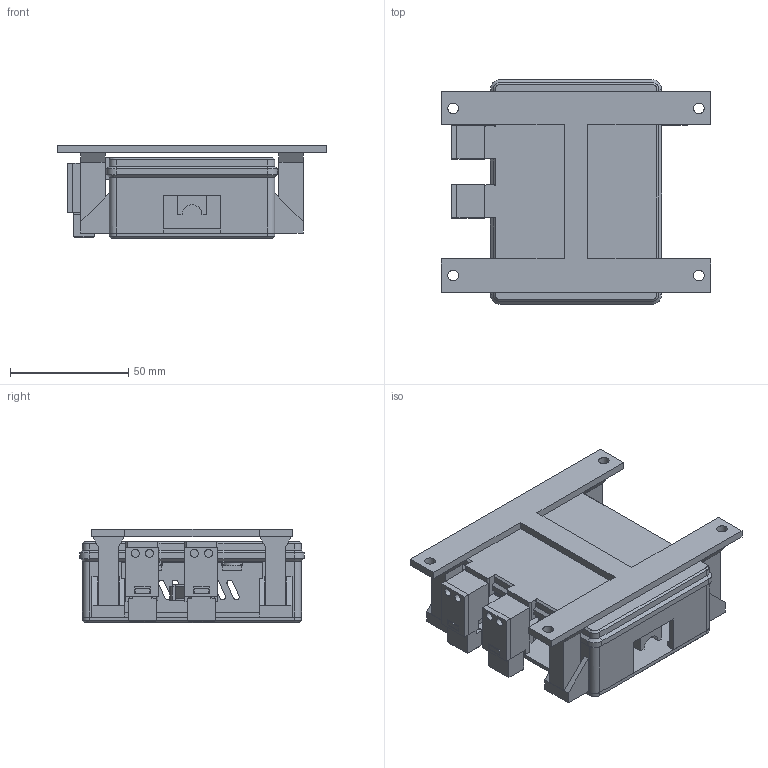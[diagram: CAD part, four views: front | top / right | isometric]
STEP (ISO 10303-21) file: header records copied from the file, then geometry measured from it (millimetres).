
FILE_DESCRIPTION(('Open CASCADE Model'),'2;1');
FILE_NAME('Open CASCADE Shape Model','2026-10-19T19:24:15',('Author'),( 'Open CASCADE'),'Open CASCADE STEP processor 7.9','build123d', 'Unknown');
FILE_SCHEMA(('AUTOMOTIVE_DESIGN { 1 0 10303 214 1 1 1 1 }'));
Length unit declared in the file: millimetre
Products named in the file (16): COMPOUND; lid; body; desk_bracket; pcb_clamp_left_front; pcb_clamp_left_rear; pcb_clamp_right_front; pcb_clamp_right_rear; reset_frame; reset_slider; reset_rear_keeper; reset_moving_magnet_keeper; boot_frame; boot_slider; boot_rear_keeper; boot_moving_magnet_keeper
Assembly tree (15 placements, depth 2):
  COMPOUND
    lid
    body
    desk_bracket
    pcb_clamp_left_front
    pcb_clamp_left_rear
    pcb_clamp_right_front
    pcb_clamp_right_rear
    reset_frame
    reset_slider
    reset_rear_keeper
    reset_moving_magnet_keeper
    boot_frame
    boot_slider
    boot_rear_keeper
    boot_moving_magnet_keeper
Bounding box: 114.1 x 95.2 x 39.6 mm (x, y, z)
Volume: 94004.1 mm3; surface area: 74013.5 mm2
Topology: 15 solids, 15 shells, 662 faces, 1788 edges, 1196 vertices
Faces by surface type: plane 522, cylinder 123, cone 16, bspline 1
Full cylindrical faces by diameter (mm): 3.4 x22, 4 x18, 4.5 x4
Entity records: 56179 total; most frequent: CARTESIAN_POINT 22311, DIRECTION 5579, LINE 4181, VECTOR 4181, ORIENTED_EDGE 3576, PCURVE 3576, DEFINITIONAL_REPRESENTATION 3576, EDGE_CURVE 1788
